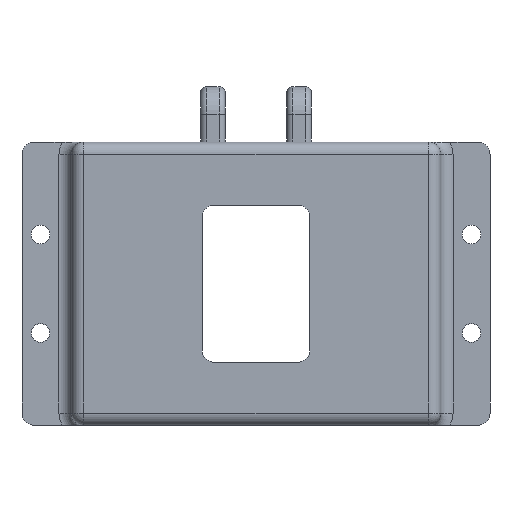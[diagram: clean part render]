
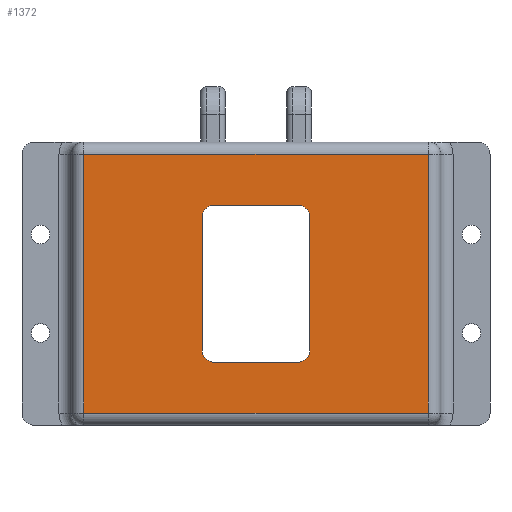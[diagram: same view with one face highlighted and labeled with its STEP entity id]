
A CAD part, front view. The second image highlights one B-rep face of the part: STEP entity #1372.
In plain terms, the highlighted planar face has unit normal (0, -1, 0).
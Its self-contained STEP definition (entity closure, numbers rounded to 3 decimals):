
#34=FACE_BOUND('',#207,.T.);
#51=PLANE('',#1534);
#115=FACE_OUTER_BOUND('',#206,.T.);
#206=EDGE_LOOP('',(#1104,#1105,#1106,#1107));
#207=EDGE_LOOP('',(#1108,#1109,#1110,#1111,#1112,#1113,#1114,#1115));
#312=LINE('',#2273,#426);
#314=LINE('',#2280,#428);
#316=LINE('',#2288,#430);
#318=LINE('',#2295,#432);
#331=LINE('',#2367,#445);
#332=LINE('',#2371,#446);
#333=LINE('',#2375,#447);
#334=LINE('',#2379,#448);
#426=VECTOR('',#1809,10.);
#428=VECTOR('',#1817,10.);
#430=VECTOR('',#1825,10.);
#432=VECTOR('',#1833,10.);
#445=VECTOR('',#1878,10.);
#446=VECTOR('',#1881,10.);
#447=VECTOR('',#1884,10.);
#448=VECTOR('',#1887,10.);
#544=CIRCLE('',#1535,2.);
#545=CIRCLE('',#1536,2.);
#546=CIRCLE('',#1537,2.);
#547=CIRCLE('',#1538,2.);
#648=VERTEX_POINT('',#2266);
#651=VERTEX_POINT('',#2271);
#652=VERTEX_POINT('',#2275);
#654=VERTEX_POINT('',#2282);
#670=VERTEX_POINT('',#2365);
#671=VERTEX_POINT('',#2366);
#672=VERTEX_POINT('',#2368);
#673=VERTEX_POINT('',#2370);
#674=VERTEX_POINT('',#2372);
#675=VERTEX_POINT('',#2374);
#676=VERTEX_POINT('',#2376);
#677=VERTEX_POINT('',#2378);
#801=EDGE_CURVE('',#651,#648,#312,.T.);
#805=EDGE_CURVE('',#648,#652,#314,.T.);
#809=EDGE_CURVE('',#652,#654,#316,.T.);
#813=EDGE_CURVE('',#654,#651,#318,.T.);
#835=EDGE_CURVE('',#670,#671,#331,.T.);
#836=EDGE_CURVE('',#672,#671,#544,.T.);
#837=EDGE_CURVE('',#672,#673,#332,.T.);
#838=EDGE_CURVE('',#674,#673,#545,.T.);
#839=EDGE_CURVE('',#674,#675,#333,.T.);
#840=EDGE_CURVE('',#676,#675,#546,.T.);
#841=EDGE_CURVE('',#676,#677,#334,.T.);
#842=EDGE_CURVE('',#670,#677,#547,.T.);
#1104=ORIENTED_EDGE('',*,*,#801,.F.);
#1105=ORIENTED_EDGE('',*,*,#813,.F.);
#1106=ORIENTED_EDGE('',*,*,#809,.F.);
#1107=ORIENTED_EDGE('',*,*,#805,.F.);
#1108=ORIENTED_EDGE('',*,*,#835,.T.);
#1109=ORIENTED_EDGE('',*,*,#836,.F.);
#1110=ORIENTED_EDGE('',*,*,#837,.T.);
#1111=ORIENTED_EDGE('',*,*,#838,.F.);
#1112=ORIENTED_EDGE('',*,*,#839,.T.);
#1113=ORIENTED_EDGE('',*,*,#840,.F.);
#1114=ORIENTED_EDGE('',*,*,#841,.T.);
#1115=ORIENTED_EDGE('',*,*,#842,.F.);
#1372=ADVANCED_FACE('',(#115,#34),#51,.F.);
#1534=AXIS2_PLACEMENT_3D('',#2364,#1876,#1877);
#1535=AXIS2_PLACEMENT_3D('',#2369,#1879,#1880);
#1536=AXIS2_PLACEMENT_3D('',#2373,#1882,#1883);
#1537=AXIS2_PLACEMENT_3D('',#2377,#1885,#1886);
#1538=AXIS2_PLACEMENT_3D('',#2380,#1888,#1889);
#1809=DIRECTION('',(0.,0.,1.));
#1817=DIRECTION('',(1.,0.,0.));
#1825=DIRECTION('',(0.,0.,-1.));
#1833=DIRECTION('',(-1.,0.,0.));
#1876=DIRECTION('center_axis',(0.,1.,0.));
#1877=DIRECTION('ref_axis',(0.,0.,1.));
#1878=DIRECTION('',(-1.,0.,0.));
#1879=DIRECTION('center_axis',(0.,-1.,0.));
#1880=DIRECTION('ref_axis',(-0.707,0.,-0.707));
#1881=DIRECTION('',(0.,0.,1.));
#1882=DIRECTION('center_axis',(0.,-1.,0.));
#1883=DIRECTION('ref_axis',(-0.707,0.,0.707));
#1884=DIRECTION('',(1.,0.,0.));
#1885=DIRECTION('center_axis',(0.,-1.,0.));
#1886=DIRECTION('ref_axis',(0.707,0.,0.707));
#1887=DIRECTION('',(0.,0.,-1.));
#1888=DIRECTION('center_axis',(0.,-1.,0.));
#1889=DIRECTION('ref_axis',(0.707,0.,-0.707));
#2266=CARTESIAN_POINT('',(-28.,0.,21.));
#2271=CARTESIAN_POINT('',(-28.,0.,-21.));
#2273=CARTESIAN_POINT('',(-28.,0.,-11.5));
#2275=CARTESIAN_POINT('',(28.,0.,21.));
#2280=CARTESIAN_POINT('',(-15.,0.,21.));
#2282=CARTESIAN_POINT('',(28.,0.,-21.));
#2288=CARTESIAN_POINT('',(28.,0.,11.5));
#2295=CARTESIAN_POINT('',(15.,0.,-21.));
#2364=CARTESIAN_POINT('Origin',(0.,0.,0.));
#2365=CARTESIAN_POINT('',(6.75,0.,-12.75));
#2366=CARTESIAN_POINT('',(-6.75,0.,-12.75));
#2367=CARTESIAN_POINT('',(-4.375,0.,-12.75));
#2368=CARTESIAN_POINT('',(-8.75,0.,-10.75));
#2369=CARTESIAN_POINT('Origin',(-6.75,0.,-10.75));
#2370=CARTESIAN_POINT('',(-8.75,0.,10.75));
#2371=CARTESIAN_POINT('',(-8.75,0.,6.375));
#2372=CARTESIAN_POINT('',(-6.75,0.,12.75));
#2373=CARTESIAN_POINT('Origin',(-6.75,0.,10.75));
#2374=CARTESIAN_POINT('',(6.75,0.,12.75));
#2375=CARTESIAN_POINT('',(4.375,0.,12.75));
#2376=CARTESIAN_POINT('',(8.75,0.,10.75));
#2377=CARTESIAN_POINT('Origin',(6.75,0.,10.75));
#2378=CARTESIAN_POINT('',(8.75,0.,-10.75));
#2379=CARTESIAN_POINT('',(8.75,0.,-6.375));
#2380=CARTESIAN_POINT('Origin',(6.75,0.,-10.75));
